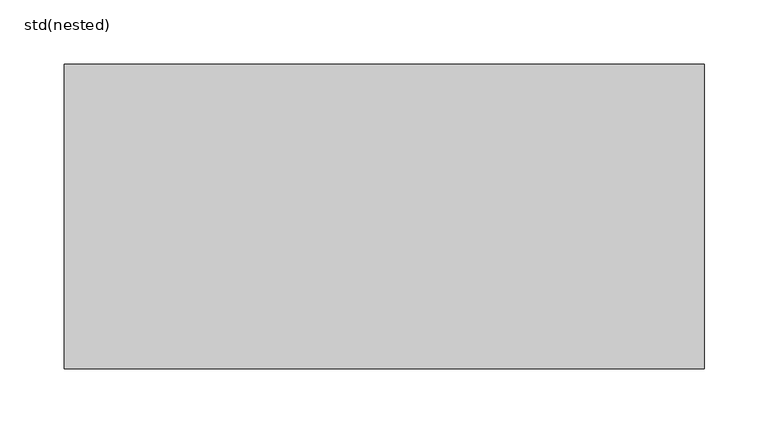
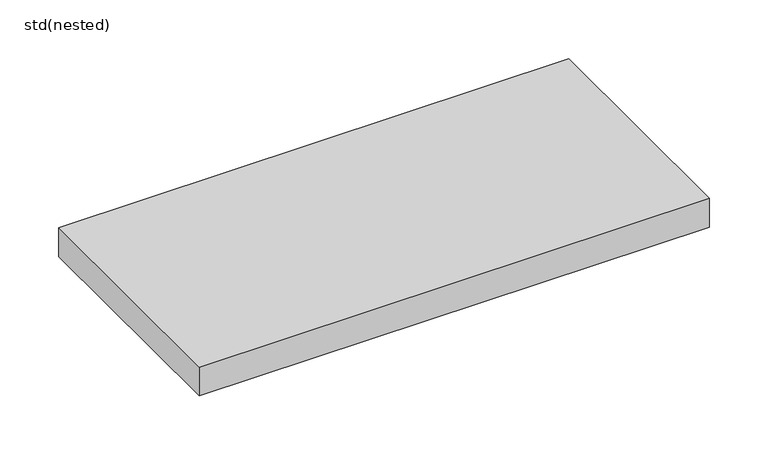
"""IFC4 building model written with IfcOpenShell, lengths in millimetres: sanitary terminal geometry, ZZZ_do not use_PF_ST_H200K_gratings_USA_ACO : std(nested)."""

from ifc_helpers import new_model, si_unit, frame, origin, place, context, project, spatial, polyline, outline, extrude, source, transform, mapped, element, save


def std_nested_73d557d2(model_context):
    return source(origin(), model_context, "Body", "SweptSolid", [
        extrude(outline(polyline([(250.0, 119.0), (250.0, -119.0), (-250.0, -119.0), (-250.0, 119.0), (250.0, 119.0)])), frame((0.0, 0.0, -113.0), z_axis=(0.0, 0.0, 1.0), x_axis=(1.0, 0.0, 0.0)), (0.0, 0.0, 1.0), 30.0),
    ])


if __name__ == "__main__":
    model = new_model("IFC4")
    model_context = context("Model", 3, world=origin())
    ifc_project = project(units=[si_unit("LENGTHUNIT", "METRE", prefix="MILLI")], contexts=[model_context])
    site = spatial("IfcSite", under=ifc_project)
    building = spatial("IfcBuilding", under=site)
    placement = place(None, origin())
    std_nested_shape = std_nested_73d557d2(model_context)
    element("IfcSanitaryTerminal", 1, ObjectType="ZZZ_do not use_PF_ST_H200K_gratings_USA_ACO : std(nested)", at=placement, inside=building, context=model_context, shape_type="MappedRepresentation", body=[
        mapped(std_nested_shape, transform((0.0, 0.0, 0.0), x_axis=(1.0, 0.0, 0.0), y_axis=(0.0, 1.0, 0.0), z_axis=(0.0, 0.0, 1.0))),
    ])
    save(model, "model.ifc")
